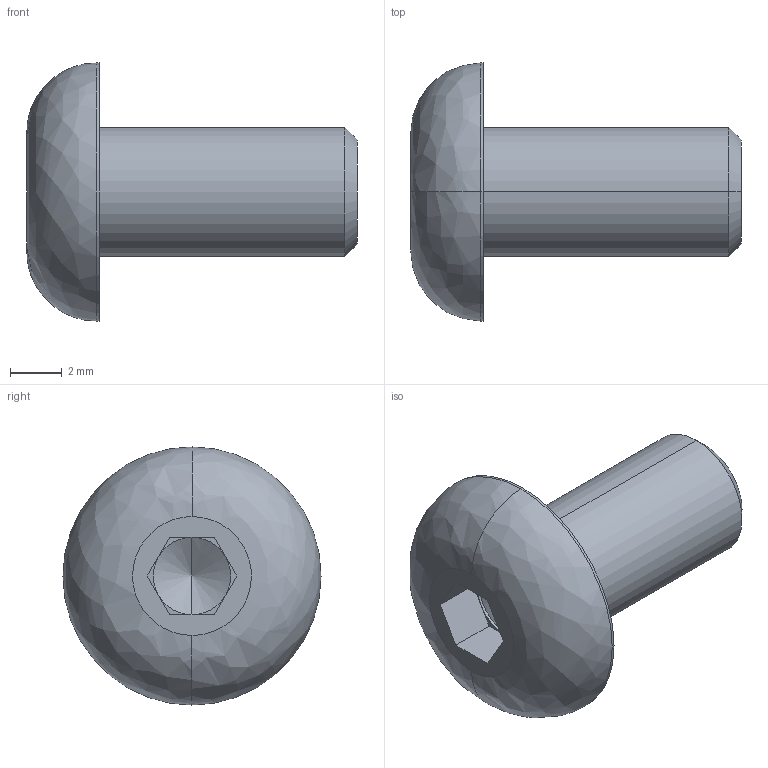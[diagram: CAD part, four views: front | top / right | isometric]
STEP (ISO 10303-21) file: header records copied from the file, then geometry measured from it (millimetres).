
FILE_DESCRIPTION (( 'STEP AP214' ), '1' );
FILE_NAME ('ISO7380_5x10.STEP', '2016-05-18T14:46:12', ( '' ), ( '' ), 'SwSTEP 2.0', 'SolidWorks 2014', '' );
FILE_SCHEMA (( 'AUTOMOTIVE_DESIGN' ));
Length unit declared in the file: millimetre
Products named in the file (1): ISO7380_5x10
Bounding box: 12.8 x 10 x 10 mm (x, y, z)
Volume: 354.2 mm3; surface area: 378.7 mm2
Topology: 1 solids, 1 shells, 27 faces, 59 edges, 34 vertices
Faces by surface type: plane 15, cylinder 6, cone 4, bspline 2
Entity records: 771 total; most frequent: CARTESIAN_POINT 158, DIRECTION 126, ORIENTED_EDGE 114, EDGE_CURVE 57, AXIS2_PLACEMENT_3D 46, VECTOR 34, VERTEX_POINT 34, LINE 34
